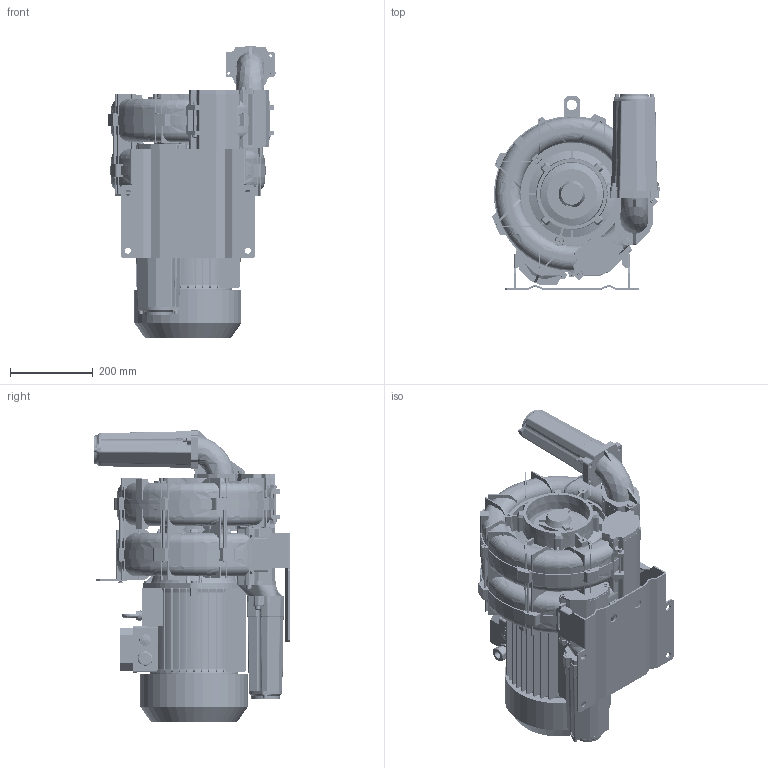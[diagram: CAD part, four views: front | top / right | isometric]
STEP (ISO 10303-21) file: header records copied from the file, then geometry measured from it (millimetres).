
FILE_DESCRIPTION (( 'STEP AP203' ), '1' );
FILE_NAME ('STP-L_e_06_TD_MOR_IE3WR_132_7.5kW-3_25-00.step', '2025-03-03T13:08:35', ( '' ), ( '' ), 'SwSTEP 2.0', 'SolidWorks 2024', '' );
FILE_SCHEMA (( 'CONFIG_CONTROL_DESIGN' ));
Products named in the file (1): STP-L_e_06_TD_MOR_IE3WR_132_7.5kW-3_25-00
Bounding box: 404.93 x 473.97 x 704.5 mm (x, y, z)
Volume: 37917326.8 mm3; surface area: 3177529.7 mm2
Topology: 113 solids, 113 shells, 6244 faces, 16503 edges, 10421 vertices
Faces by surface type: plane 2712, cylinder 1750, cone 727, bspline 650, torus 372, sphere 33
Full cylindrical faces by diameter (mm): 4 x8, 4.917 x11, 5 x13, 6 x20, 6.4 x20, 6.5 x1, 6.8 x9, 7.5 x4, 8 x72, 8.4 x12, 8.5 x14, 9 x5, 9.5 x4, 10 x46, 11 x2, 13 x22, 15 x8, 15.842 x1, 15.965 x1, 16 x8, 18 x1, 19 x1, 20 x2, 21.4 x1, 22 x2, 24 x4, 25 x4, 28 x1, 57 x2, 73 x3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
Entity records: 213902 total; most frequent: CARTESIAN_POINT 68628, ORIENTED_EDGE 30920, DIRECTION 28763, EDGE_CURVE 15460, AXIS2_PLACEMENT_3D 10595, VERTEX_POINT 10205, VECTOR 7573, LINE 7573
